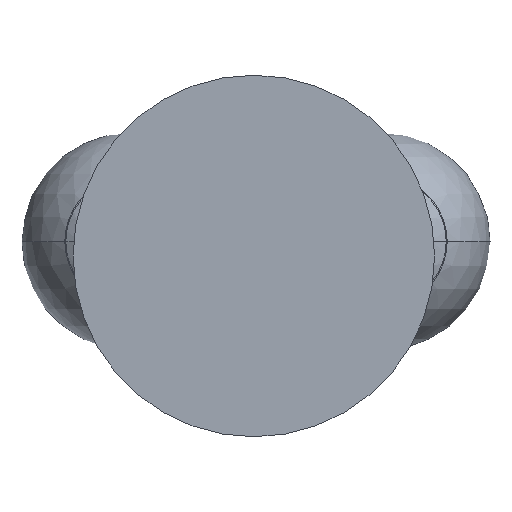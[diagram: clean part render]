
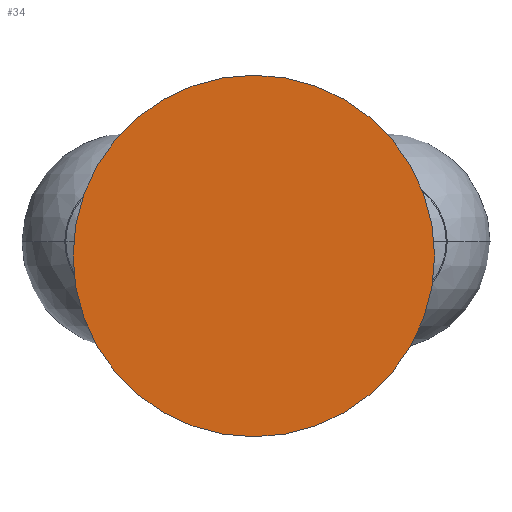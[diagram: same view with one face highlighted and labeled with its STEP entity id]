
A CAD part, front view. The second image highlights one B-rep face of the part: STEP entity #34.
In plain terms, the highlighted planar face has unit normal (0, -1, 0).
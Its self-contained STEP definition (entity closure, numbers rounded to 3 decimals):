
#34 = ADVANCED_FACE ( 'NONE', ( #55 ), #1189, .T. ) ;
#55 = FACE_OUTER_BOUND ( 'NONE', #291, .T. ) ;
#135 = AXIS2_PLACEMENT_3D ( 'NONE', #1056, #1255, #543 ) ;
#159 = EDGE_CURVE ( 'NONE', #1290, #1086, #914, .T. ) ;
#252 = DIRECTION ( 'NONE',  ( -1., 0., 0. ) ) ;
#289 = CARTESIAN_POINT ( 'NONE',  ( 0., 0., 0. ) ) ;
#291 = EDGE_LOOP ( 'NONE', ( #623, #514 ) ) ;
#501 = DIRECTION ( 'NONE',  ( 0., -1., 0. ) ) ;
#514 = ORIENTED_EDGE ( 'NONE', *, *, #159, .T. ) ;
#526 = CARTESIAN_POINT ( 'NONE',  ( -100., 0., 0. ) ) ;
#543 = DIRECTION ( 'NONE',  ( -1., 0., 0. ) ) ;
#560 = DIRECTION ( 'NONE',  ( 0., -1., 0. ) ) ;
#623 = ORIENTED_EDGE ( 'NONE', *, *, #1249, .T. ) ;
#849 = AXIS2_PLACEMENT_3D ( 'NONE', #1285, #560, #252 ) ;
#914 = CIRCLE ( 'NONE', #993, 100. ) ;
#919 = CIRCLE ( 'NONE', #135, 100. ) ;
#993 = AXIS2_PLACEMENT_3D ( 'NONE', #289, #501, #1129 ) ;
#1056 = CARTESIAN_POINT ( 'NONE',  ( 0., 0., 0. ) ) ;
#1086 = VERTEX_POINT ( 'NONE', #526 ) ;
#1129 = DIRECTION ( 'NONE',  ( -1., 0., 0. ) ) ;
#1189 = PLANE ( 'NONE',  #849 ) ;
#1249 = EDGE_CURVE ( 'NONE', #1086, #1290, #919, .T. ) ;
#1255 = DIRECTION ( 'NONE',  ( 0., -1., 0. ) ) ;
#1285 = CARTESIAN_POINT ( 'NONE',  ( -274.623, 0., 270.743 ) ) ;
#1289 = CARTESIAN_POINT ( 'NONE',  ( 100., 0., 0. ) ) ;
#1290 = VERTEX_POINT ( 'NONE', #1289 ) ;
